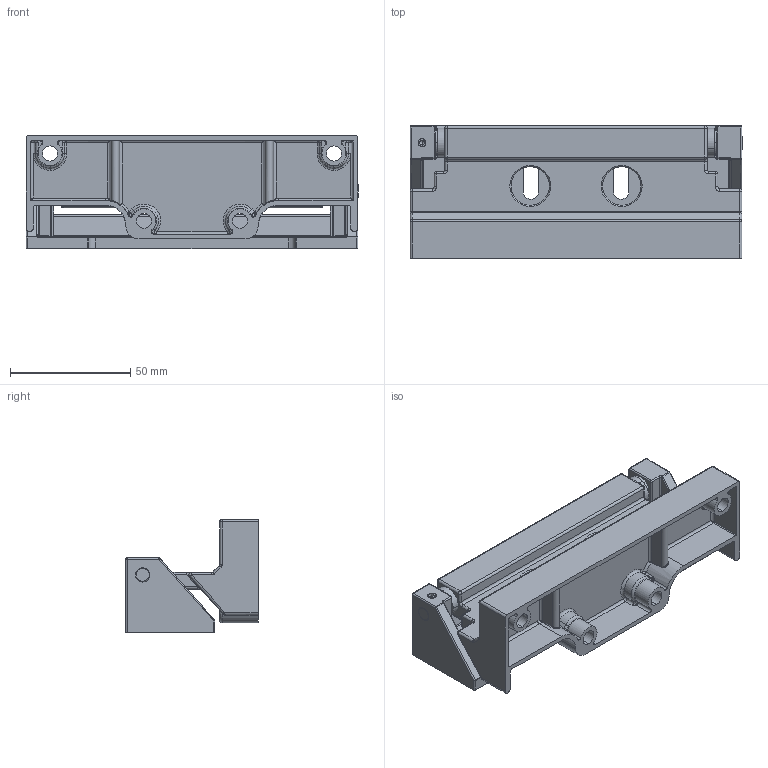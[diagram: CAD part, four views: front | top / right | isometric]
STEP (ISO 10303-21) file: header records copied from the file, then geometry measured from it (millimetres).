
FILE_DESCRIPTION (( 'STEP AP203' ), '1' );
FILE_NAME ('SK2-002ÐÂ.STEP', '2022-09-28T01:47:05', ( '' ), ( '' ), 'SwSTEP 2.0', 'SolidWorks 2019', '' );
FILE_SCHEMA (( 'CONFIG_CONTROL_DESIGN' ));
Length unit declared in the file: millimetre
Products named in the file (7): SK2-002-F1; SK2-002-F2; SK2-002-F3; SK2-002-F5; hex socket set screws with flat point gb_GB_FASTENER_SCREWS_HSFP M4X5-C; SK2-002陔; SK2-002-F4
Assembly tree (8 placements, depth 2):
  SK2-002陔
    SK2-002-F1
    SK2-002-F2
    SK2-002-F3  x2
    SK2-002-F4  x2
    SK2-002-F5
    hex socket set screws with flat point gb_GB_FASTENER_SCREWS_HSFP M4X5-C
Bounding box: 138 x 55 x 47 mm (x, y, z)
Volume: 93840.9 mm3; surface area: 59579.3 mm2
Topology: 8 solids, 8 shells, 612 faces, 1470 edges, 829 vertices
Faces by surface type: cylinder 257, bspline 183, plane 150, cone 22
Entity records: 22279 total; most frequent: CARTESIAN_POINT 8738, ORIENTED_EDGE 2748, DIRECTION 2603, EDGE_CURVE 1374, AXIS2_PLACEMENT_3D 1005, VERTEX_POINT 803, EDGE_LOOP 637, FACE_OUTER_BOUND 594
